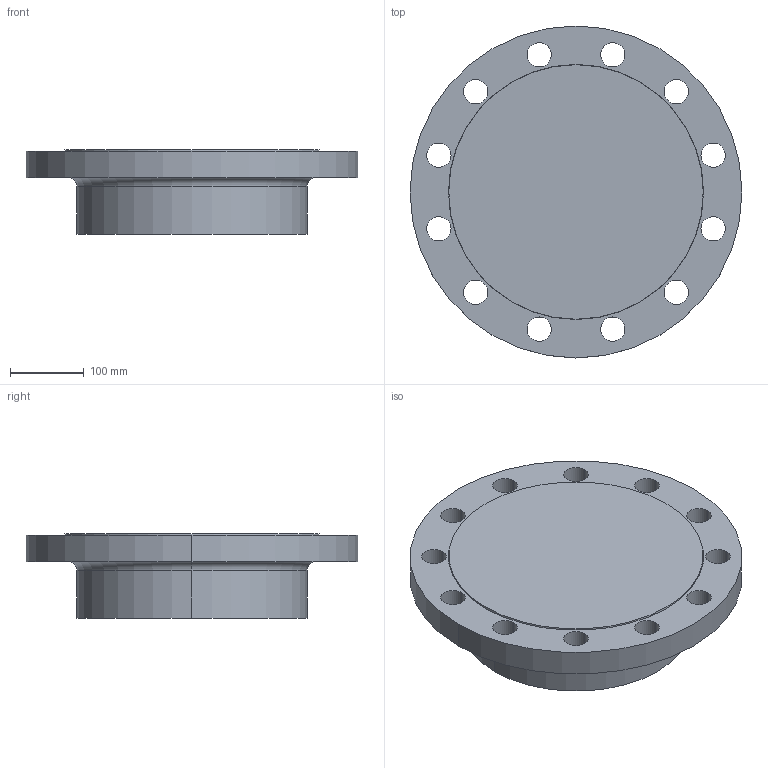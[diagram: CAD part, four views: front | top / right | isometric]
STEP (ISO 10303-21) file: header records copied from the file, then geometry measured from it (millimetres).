
FILE_DESCRIPTION (( 'STEP AP214' ), '1' );
FILE_NAME ('PN40 DN250 Type 21(i) - Type B Face.STEP', '2019-01-05T15:56:20', ( '' ), ( '' ), 'SwSTEP 2.0', 'SolidWorks 2019', '' );
FILE_SCHEMA (( 'AUTOMOTIVE_DESIGN' ));
Length unit declared in the file: millimetre
Products named in the file (1): PN40 DN250 Type 21(i) - Type B Face
Bounding box: 450 x 450 x 115 mm (x, y, z)
Volume: 11461163.2 mm3; surface area: 465549.5 mm2
Topology: 1 solids, 1 shells, 36 faces, 94 edges, 62 vertices
Faces by surface type: cylinder 28, plane 4, torus 2, cone 2
Entity records: 1228 total; most frequent: DIRECTION 232, CARTESIAN_POINT 193, ORIENTED_EDGE 188, AXIS2_PLACEMENT_3D 101, EDGE_CURVE 94, CIRCLE 64, EDGE_LOOP 62, VERTEX_POINT 62
